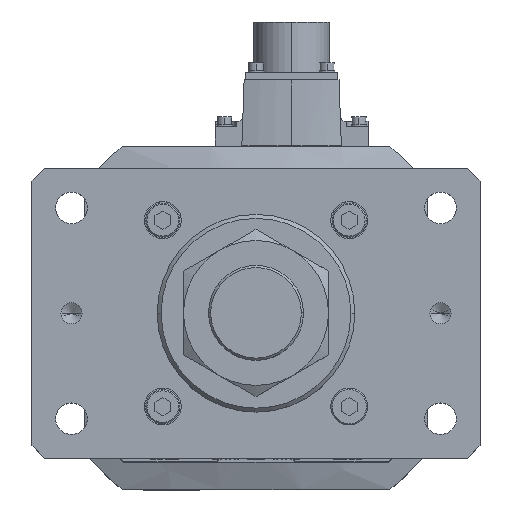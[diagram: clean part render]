
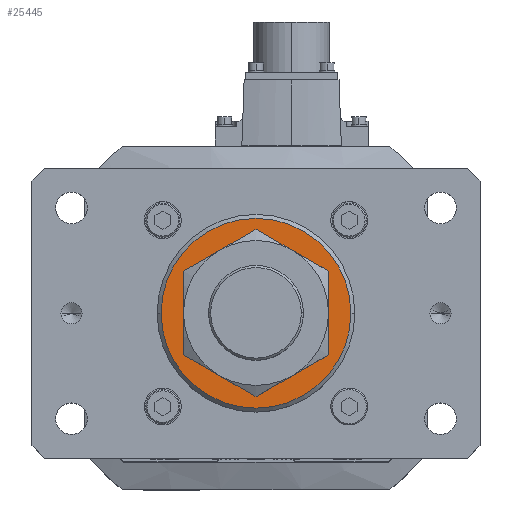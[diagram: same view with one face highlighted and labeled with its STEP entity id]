
A CAD part, top view. The second image highlights one B-rep face of the part: STEP entity #25445.
In plain terms, the highlighted planar face has unit normal (0, 0, 1).
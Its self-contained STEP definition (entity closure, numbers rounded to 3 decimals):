
#1472 = CARTESIAN_POINT ( 'NONE',  ( 0., 0., 796. ) ) ;
#2495 = CARTESIAN_POINT ( 'NONE',  ( 0., 0., 796. ) ) ;
#3665 = CIRCLE ( 'NONE', #4840, 36. ) ;
#4287 = DIRECTION ( 'NONE',  ( 0., 0., 1. ) ) ;
#4840 = AXIS2_PLACEMENT_3D ( 'NONE', #1472, #4287, #24123 ) ;
#5213 = CIRCLE ( 'NONE', #23169, 23. ) ;
#5239 = ORIENTED_EDGE ( 'NONE', *, *, #5613, .T. ) ;
#5613 = EDGE_CURVE ( 'NONE', #8275, #27401, #35436, .T. ) ;
#7304 = AXIS2_PLACEMENT_3D ( 'NONE', #7839, #10733, #21785 ) ;
#7839 = CARTESIAN_POINT ( 'NONE',  ( 0., 0., 796. ) ) ;
#8275 = VERTEX_POINT ( 'NONE', #13152 ) ;
#9681 = CARTESIAN_POINT ( 'NONE',  ( 23., 0., 796. ) ) ;
#10642 = CARTESIAN_POINT ( 'NONE',  ( 0., 0., 796. ) ) ;
#10729 = EDGE_CURVE ( 'NONE', #27401, #8275, #3665, .T. ) ;
#10733 = DIRECTION ( 'NONE',  ( 0., 0., 1. ) ) ;
#11017 = DIRECTION ( 'NONE',  ( 0., 0., -1. ) ) ;
#11336 = AXIS2_PLACEMENT_3D ( 'NONE', #2495, #34111, #22764 ) ;
#13152 = CARTESIAN_POINT ( 'NONE',  ( -36., 0., 796. ) ) ;
#16341 = EDGE_LOOP ( 'NONE', ( #36838, #20009 ) ) ;
#18442 = FACE_OUTER_BOUND ( 'NONE', #23915, .T. ) ;
#19247 = EDGE_CURVE ( 'NONE', #22580, #26649, #5213, .T. ) ;
#19617 = PLANE ( 'NONE',  #11336 ) ;
#20009 = ORIENTED_EDGE ( 'NONE', *, *, #19247, .T. ) ;
#20218 = CARTESIAN_POINT ( 'NONE',  ( -23., 0., 796. ) ) ;
#20672 = CIRCLE ( 'NONE', #22168, 23. ) ;
#21116 = DIRECTION ( 'NONE',  ( 0., 0., -1. ) ) ;
#21785 = DIRECTION ( 'NONE',  ( 1., 0., 0. ) ) ;
#22168 = AXIS2_PLACEMENT_3D ( 'NONE', #24134, #21116, #26616 ) ;
#22580 = VERTEX_POINT ( 'NONE', #20218 ) ;
#22764 = DIRECTION ( 'NONE',  ( 1., 0., 0. ) ) ;
#23169 = AXIS2_PLACEMENT_3D ( 'NONE', #10642, #11017, #28165 ) ;
#23915 = EDGE_LOOP ( 'NONE', ( #5239, #35592 ) ) ;
#24123 = DIRECTION ( 'NONE',  ( 1., 0., 0. ) ) ;
#24134 = CARTESIAN_POINT ( 'NONE',  ( 0., 0., 796. ) ) ;
#25445 = ADVANCED_FACE ( 'NONE', ( #29608, #18442 ), #19617, .T. ) ;
#25687 = EDGE_CURVE ( 'NONE', #26649, #22580, #20672, .T. ) ;
#26616 = DIRECTION ( 'NONE',  ( 1., 0., 0. ) ) ;
#26649 = VERTEX_POINT ( 'NONE', #9681 ) ;
#27401 = VERTEX_POINT ( 'NONE', #27659 ) ;
#27659 = CARTESIAN_POINT ( 'NONE',  ( 36., 0., 796. ) ) ;
#28165 = DIRECTION ( 'NONE',  ( 1., 0., 0. ) ) ;
#29608 = FACE_BOUND ( 'NONE', #16341, .T. ) ;
#34111 = DIRECTION ( 'NONE',  ( 0., 0., 1. ) ) ;
#35436 = CIRCLE ( 'NONE', #7304, 36. ) ;
#35592 = ORIENTED_EDGE ( 'NONE', *, *, #10729, .T. ) ;
#36838 = ORIENTED_EDGE ( 'NONE', *, *, #25687, .T. ) ;
